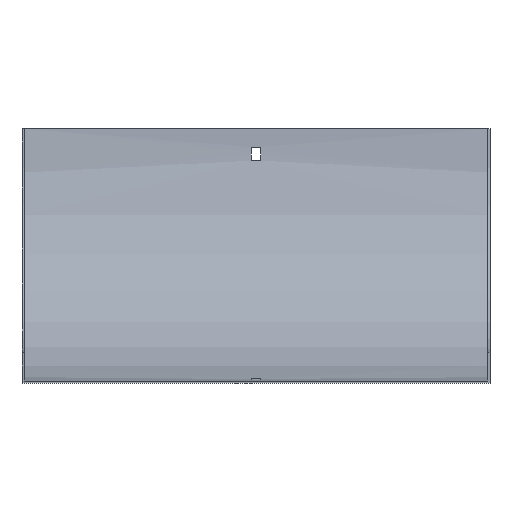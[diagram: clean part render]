
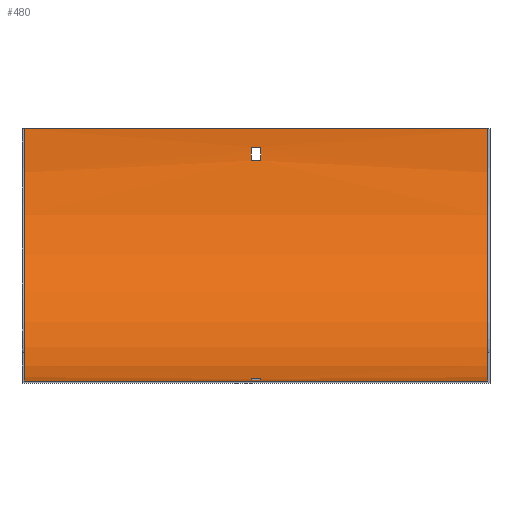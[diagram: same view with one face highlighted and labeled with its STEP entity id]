
A CAD part, front view. The second image highlights one B-rep face of the part: STEP entity #480.
In plain terms, the highlighted cylindrical face has radius 165.5 mm (diameter 331 mm), a partial arc.
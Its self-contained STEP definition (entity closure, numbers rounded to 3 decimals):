
#15 = CARTESIAN_POINT ( 'NONE',  ( 152., -167., -165.5 ) ) ;
#20 = VERTEX_POINT ( 'NONE', #575 ) ;
#27 = ORIENTED_EDGE ( 'NONE', *, *, #525, .T. ) ;
#29 = VERTEX_POINT ( 'NONE', #51 ) ;
#30 = CARTESIAN_POINT ( 'NONE',  ( -3.25, -167., 0. ) ) ;
#46 = VERTEX_POINT ( 'NONE', #582 ) ;
#49 = VERTEX_POINT ( 'NONE', #245 ) ;
#51 = CARTESIAN_POINT ( 'NONE',  ( -3.25, -1.936, -12. ) ) ;
#57 = VECTOR ( 'NONE', #339, 1000. ) ;
#60 = CARTESIAN_POINT ( 'NONE',  ( 153.5, -155., -165.064 ) ) ;
#64 = VERTEX_POINT ( 'NONE', #380 ) ;
#65 = ORIENTED_EDGE ( 'NONE', *, *, #238, .F. ) ;
#92 = DIRECTION ( 'NONE',  ( -1., 0., 0. ) ) ;
#96 = LINE ( 'NONE', #365, #270 ) ;
#112 = CARTESIAN_POINT ( 'NONE',  ( 153.5, -1.936, -12. ) ) ;
#115 = CIRCLE ( 'NONE', #455, 165.5 ) ;
#119 = DIRECTION ( 'NONE',  ( -1., 0., 0. ) ) ;
#120 = ORIENTED_EDGE ( 'NONE', *, *, #189, .T. ) ;
#123 = ORIENTED_EDGE ( 'NONE', *, *, #362, .F. ) ;
#125 = VERTEX_POINT ( 'NONE', #586 ) ;
#127 = VECTOR ( 'NONE', #303, 1000. ) ;
#130 = CARTESIAN_POINT ( 'NONE',  ( 3.25, -167., 0. ) ) ;
#131 = FACE_BOUND ( 'NONE', #290, .T. ) ;
#132 = DIRECTION ( 'NONE',  ( 0., 0., -1. ) ) ;
#133 = EDGE_CURVE ( 'NONE', #510, #49, #599, .T. ) ;
#140 = EDGE_CURVE ( 'NONE', #423, #64, #115, .T. ) ;
#145 = CIRCLE ( 'NONE', #547, 165.5 ) ;
#149 = EDGE_CURVE ( 'NONE', #125, #29, #163, .T. ) ;
#155 = ORIENTED_EDGE ( 'NONE', *, *, #140, .T. ) ;
#162 = ORIENTED_EDGE ( 'NONE', *, *, #149, .F. ) ;
#163 = LINE ( 'NONE', #112, #170 ) ;
#168 = CARTESIAN_POINT ( 'NONE',  ( 153.5, -2.838, -21. ) ) ;
#170 = VECTOR ( 'NONE', #119, 1000. ) ;
#173 = DIRECTION ( 'NONE',  ( 0., 0., 1. ) ) ;
#176 = VERTEX_POINT ( 'NONE', #414 ) ;
#182 = EDGE_CURVE ( 'NONE', #312, #292, #145, .T. ) ;
#186 = CARTESIAN_POINT ( 'NONE',  ( 3.25, -146., -164.162 ) ) ;
#189 = EDGE_CURVE ( 'NONE', #176, #46, #406, .T. ) ;
#206 = DIRECTION ( 'NONE',  ( 0., 0., 1. ) ) ;
#210 = AXIS2_PLACEMENT_3D ( 'NONE', #315, #556, #132 ) ;
#216 = CARTESIAN_POINT ( 'NONE',  ( 3.25, -167., 0. ) ) ;
#222 = DIRECTION ( 'NONE',  ( -1., 0., 0. ) ) ;
#225 = AXIS2_PLACEMENT_3D ( 'NONE', #30, #235, #523 ) ;
#235 = DIRECTION ( 'NONE',  ( -1., 0., 0. ) ) ;
#238 = EDGE_CURVE ( 'NONE', #20, #543, #444, .T. ) ;
#245 = CARTESIAN_POINT ( 'NONE',  ( 3.25, -2.838, -21. ) ) ;
#270 = VECTOR ( 'NONE', #558, 1000. ) ;
#290 = EDGE_LOOP ( 'NONE', ( #123, #162, #401, #546 ) ) ;
#291 = DIRECTION ( 'NONE',  ( -1., 0., 0. ) ) ;
#292 = VERTEX_POINT ( 'NONE', #461 ) ;
#298 = LINE ( 'NONE', #60, #431 ) ;
#303 = DIRECTION ( 'NONE',  ( 1., 0., 0. ) ) ;
#306 = EDGE_CURVE ( 'NONE', #46, #312, #96, .T. ) ;
#312 = VERTEX_POINT ( 'NONE', #186 ) ;
#315 = CARTESIAN_POINT ( 'NONE',  ( -3.25, -167., 0. ) ) ;
#323 = DIRECTION ( 'NONE',  ( 1., 0., 0. ) ) ;
#333 = DIRECTION ( 'NONE',  ( -1., 0., 0. ) ) ;
#339 = DIRECTION ( 'NONE',  ( -1., 0., 0. ) ) ;
#358 = CYLINDRICAL_SURFACE ( 'NONE', #496, 165.5 ) ;
#362 = EDGE_CURVE ( 'NONE', #29, #510, #387, .T. ) ;
#365 = CARTESIAN_POINT ( 'NONE',  ( 153.5, -146., -164.162 ) ) ;
#369 = AXIS2_PLACEMENT_3D ( 'NONE', #216, #402, #372 ) ;
#372 = DIRECTION ( 'NONE',  ( 0., 0., -1. ) ) ;
#379 = LINE ( 'NONE', #576, #418 ) ;
#380 = CARTESIAN_POINT ( 'NONE',  ( 152., -1.5, 0. ) ) ;
#387 = CIRCLE ( 'NONE', #225, 165.5 ) ;
#389 = EDGE_LOOP ( 'NONE', ( #65, #476, #155, #492 ) ) ;
#392 = CARTESIAN_POINT ( 'NONE',  ( -152., -1.5, 0. ) ) ;
#401 = ORIENTED_EDGE ( 'NONE', *, *, #507, .F. ) ;
#402 = DIRECTION ( 'NONE',  ( 1., 0., 0. ) ) ;
#406 = CIRCLE ( 'NONE', #210, 165.5 ) ;
#414 = CARTESIAN_POINT ( 'NONE',  ( -3.25, -155., -165.064 ) ) ;
#418 = VECTOR ( 'NONE', #333, 1000. ) ;
#423 = VERTEX_POINT ( 'NONE', #15 ) ;
#431 = VECTOR ( 'NONE', #291, 1000. ) ;
#435 = EDGE_CURVE ( 'NONE', #64, #543, #379, .T. ) ;
#441 = DIRECTION ( 'NONE',  ( 1., 0., 0. ) ) ;
#444 = CIRCLE ( 'NONE', #573, 165.5 ) ;
#455 = AXIS2_PLACEMENT_3D ( 'NONE', #535, #441, #206 ) ;
#457 = FACE_OUTER_BOUND ( 'NONE', #389, .T. ) ;
#461 = CARTESIAN_POINT ( 'NONE',  ( 3.25, -155., -165.064 ) ) ;
#476 = ORIENTED_EDGE ( 'NONE', *, *, #552, .F. ) ;
#480 = ADVANCED_FACE ( 'NONE', ( #131, #457, #511 ), #358, .F. ) ;
#487 = LINE ( 'NONE', #531, #57 ) ;
#492 = ORIENTED_EDGE ( 'NONE', *, *, #435, .T. ) ;
#496 = AXIS2_PLACEMENT_3D ( 'NONE', #557, #222, #173 ) ;
#502 = DIRECTION ( 'NONE',  ( 0., 0., 1. ) ) ;
#507 = EDGE_CURVE ( 'NONE', #49, #125, #509, .T. ) ;
#509 = CIRCLE ( 'NONE', #369, 165.5 ) ;
#510 = VERTEX_POINT ( 'NONE', #568 ) ;
#511 = FACE_BOUND ( 'NONE', #536, .T. ) ;
#513 = DIRECTION ( 'NONE',  ( 0., 0., 1. ) ) ;
#523 = DIRECTION ( 'NONE',  ( 0., 0., 1. ) ) ;
#524 = ORIENTED_EDGE ( 'NONE', *, *, #182, .T. ) ;
#525 = EDGE_CURVE ( 'NONE', #292, #176, #298, .T. ) ;
#531 = CARTESIAN_POINT ( 'NONE',  ( 152., -167., -165.5 ) ) ;
#535 = CARTESIAN_POINT ( 'NONE',  ( 152., -167., 0. ) ) ;
#536 = EDGE_LOOP ( 'NONE', ( #27, #120, #567, #524 ) ) ;
#543 = VERTEX_POINT ( 'NONE', #392 ) ;
#546 = ORIENTED_EDGE ( 'NONE', *, *, #133, .F. ) ;
#547 = AXIS2_PLACEMENT_3D ( 'NONE', #130, #92, #502 ) ;
#549 = CARTESIAN_POINT ( 'NONE',  ( -152., -167., 0. ) ) ;
#552 = EDGE_CURVE ( 'NONE', #423, #20, #487, .T. ) ;
#556 = DIRECTION ( 'NONE',  ( 1., 0., 0. ) ) ;
#557 = CARTESIAN_POINT ( 'NONE',  ( 153.5, -167., 0. ) ) ;
#558 = DIRECTION ( 'NONE',  ( 1., 0., 0. ) ) ;
#567 = ORIENTED_EDGE ( 'NONE', *, *, #306, .T. ) ;
#568 = CARTESIAN_POINT ( 'NONE',  ( -3.25, -2.838, -21. ) ) ;
#573 = AXIS2_PLACEMENT_3D ( 'NONE', #549, #323, #513 ) ;
#575 = CARTESIAN_POINT ( 'NONE',  ( -152., -167., -165.5 ) ) ;
#576 = CARTESIAN_POINT ( 'NONE',  ( 152., -1.5, 0. ) ) ;
#582 = CARTESIAN_POINT ( 'NONE',  ( -3.25, -146., -164.162 ) ) ;
#586 = CARTESIAN_POINT ( 'NONE',  ( 3.25, -1.936, -12. ) ) ;
#599 = LINE ( 'NONE', #168, #127 ) ;
